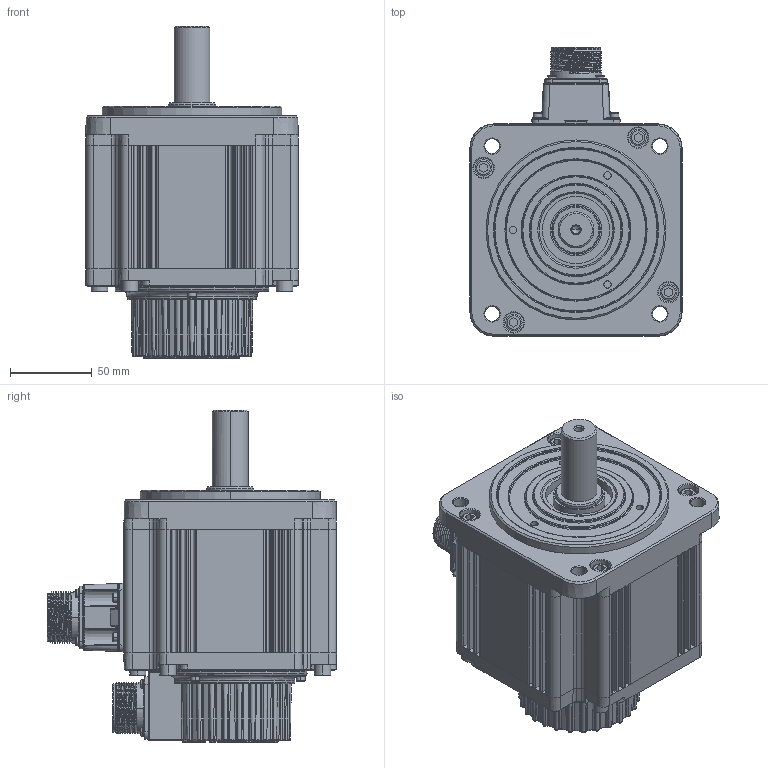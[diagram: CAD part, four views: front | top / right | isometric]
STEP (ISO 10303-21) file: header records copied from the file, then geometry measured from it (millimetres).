
FILE_DESCRIPTION((''),'2;1');
FILE_NAME('TLP-X145-050-DKMX2X_SW0001','2019-09-03T',('JIADE.CHEN'),(''),'CREO PARAMETRIC BY PTC INC, 2015080','CREO PARAMETRIC BY PTC INC, 2015080','');
FILE_SCHEMA(('CONFIG_CONTROL_DESIGN'));
Products named in the file (1): TLP-X145-050-DKMX2X_SW0001
Bounding box: 130 x 176.7 x 202.9 mm (x, y, z)
Volume: 1893609.5 mm3; surface area: 142177.3 mm2
Topology: 1 solids, 24 shells, 2786 faces, 7063 edges, 4208 vertices
Faces by surface type: plane 915, cylinder 831, cone 307, torus 266, bspline 244, sphere 219, extrusion 4
Entity records: 130569 total; most frequent: CARTESIAN_POINT 52873, ORIENTED_EDGE 13550, DIRECTION 13184, EDGE_CURVE 6775, AXIS2_PLACEMENT_3D 5157, VERTEX_POINT 4200, EDGE_LOOP 2957, VECTOR 2870
